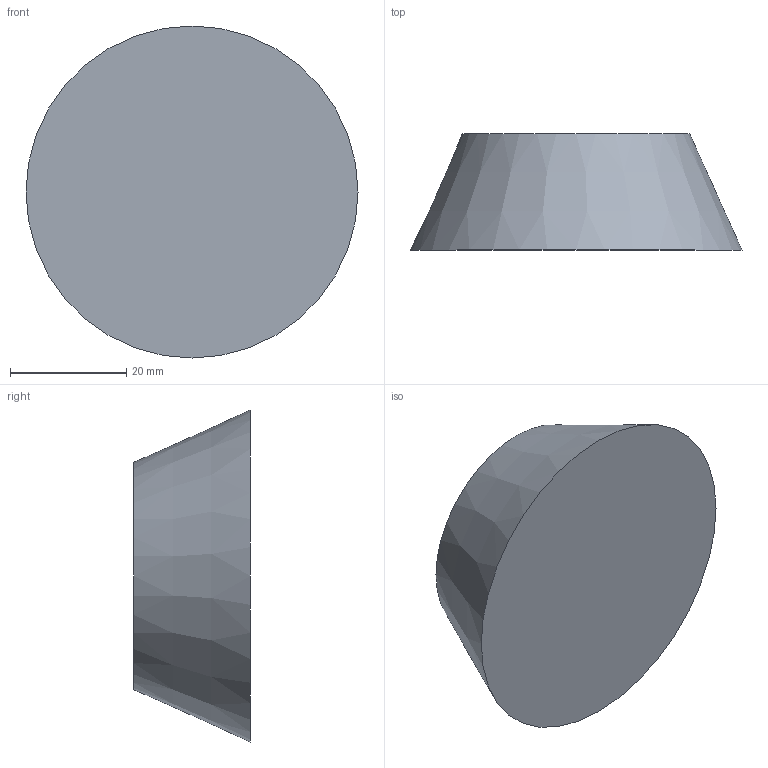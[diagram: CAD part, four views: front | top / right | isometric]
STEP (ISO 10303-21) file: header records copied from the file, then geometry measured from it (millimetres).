
FILE_DESCRIPTION( ( 'STEP AP214' ), '1' );
FILE_NAME( 'D:/Yug/2020/ProDecor_2020/QC/9266415.stp', '2020-06-01T11:28:30', ( '' ), ( '' ), ' ', 'PARTsolutions', ' ' );
FILE_SCHEMA( ( 'AUTOMOTIVE_DESIGN { 1 0 10303 214 1 1 1 1 }' ) );
Length unit declared in the file: millimetre
Products named in the file (1): _9266415
Bounding box: 57 x 20 x 57 mm (x, y, z)
Volume: 36414.2 mm3; surface area: 7254.6 mm2
Topology: 1 solids, 1 shells, 7 faces, 10 edges, 7 vertices
Faces by surface type: plane 4, cylinder 2, cone 1
Full cylindrical faces by diameter (mm): 4 x2
Entity records: 206 total; most frequent: DIRECTION 28, CARTESIAN_POINT 20, AXIS2_PLACEMENT_3D 14, EDGE_LOOP 12, ORIENTED_EDGE 12, FACE_OUTER_BOUND 9, STYLED_ITEM 7, PRESENTATION_STYLE_ASSIGNMENT 7
